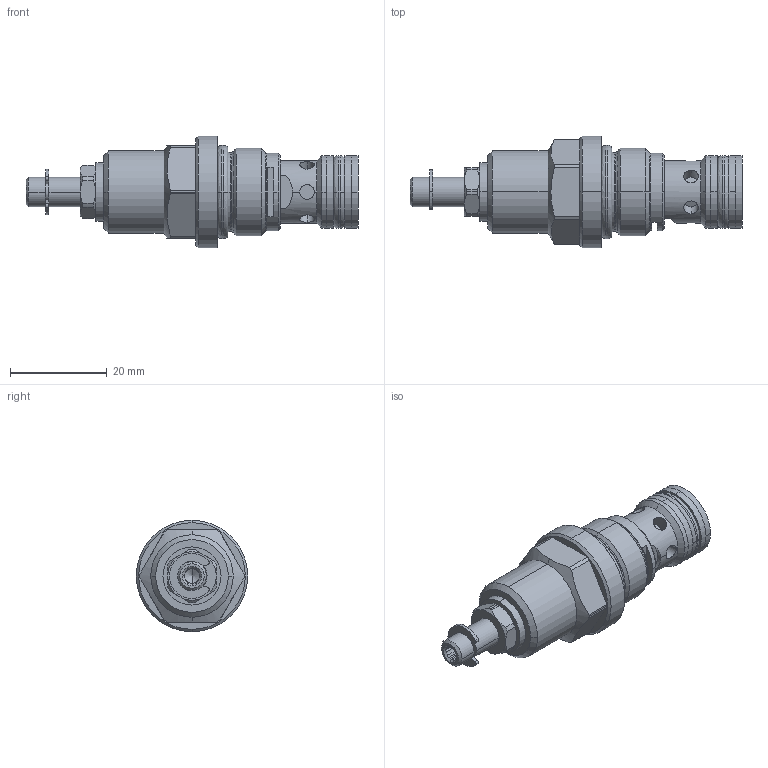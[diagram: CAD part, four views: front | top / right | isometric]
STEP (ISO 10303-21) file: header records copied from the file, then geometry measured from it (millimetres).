
FILE_DESCRIPTION (( 'STEP AP214' ), '1' );
FILE_NAME ('DRSPM18.STEP', '2017-03-24T13:55:02', ( '' ), ( '' ), 'SwSTEP 2.0', 'SolidWorks 2016', '' );
FILE_SCHEMA (( 'AUTOMOTIVE_DESIGN' ));
Length unit declared in the file: millimetre
Products named in the file (1): DRSPM18
Bounding box: 68.5 x 23 x 23 mm (x, y, z)
Volume: 12350.5 mm3; surface area: 6363.3 mm2
Topology: 7 solids, 7 shells, 241 faces, 580 edges, 367 vertices
Faces by surface type: cylinder 94, plane 69, cone 38, bspline 32, torus 8
Entity records: 11143 total; most frequent: CARTESIAN_POINT 2800, DIRECTION 1223, ORIENTED_EDGE 1156, EDGE_CURVE 578, AXIS2_PLACEMENT_3D 517, VERTEX_POINT 367, CIRCLE 307, EDGE_LOOP 267
